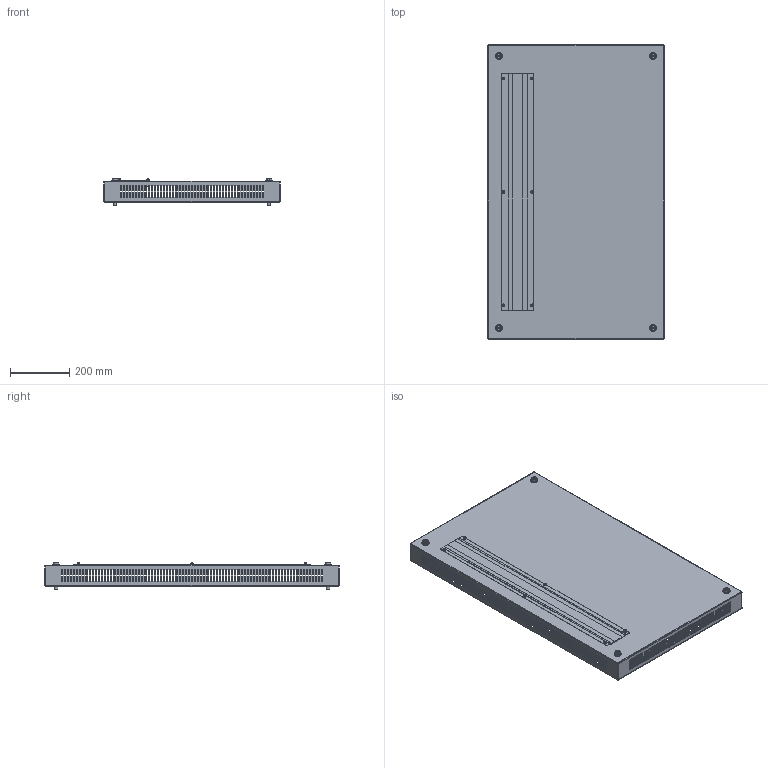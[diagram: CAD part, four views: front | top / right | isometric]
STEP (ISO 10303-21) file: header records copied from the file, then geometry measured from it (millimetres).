
FILE_DESCRIPTION(('STEP AP203'), '1');
FILE_NAME('3320 ÑÁ Ïîòîëî÷íàÿ ïàíåëü', '', ('UNSPECIFIED'), ('UNSPECIFIED'), 'C3D Converter', 'C3D Toolkit', '');
FILE_SCHEMA(('CONFIG_CONTROL_DESIGN'));
Length unit declared in the file: millimetre
Products named in the file (10): 3320.100.60.Щ СБ; 3321; 2329
Assembly tree (39 placements, depth 2):
  3320.100.60.Щ СБ
    3321
    2329  x4
    (unnamed)  x4
    (unnamed)  x4
    (unnamed)  x6
    (unnamed)  x6
    (unnamed)  x6
    (unnamed)  x6
    (unnamed)  x2
Bounding box: 597 x 997 x 93.5 mm (x, y, z)
Volume: 1578452.1 mm3; surface area: 1815923.4 mm2
Topology: 41 solids, 41 shells, 2008 faces, 5576 edges, 3692 vertices
Faces by surface type: plane 1544, cylinder 216, bspline 180, cone 26, sphere 22, torus 20
Full cylindrical faces by diameter (mm): 4.134 x6, 5 x6, 5.5 x6, 5.8 x6, 6 x4, 7 x6, 8.8 x6, 9.5 x6, 10 x6, 10.106 x4, 12 x8, 13.5 x4, 16 x4, 18 x4, 24 x4
Entity records: 52279 total; most frequent: CARTESIAN_POINT 13907, ORIENTED_EDGE 7796, DIRECTION 6798, EDGE_CURVE 3898, LINE 3680, VECTOR 3680, VERTEX_POINT 2592, EDGE_LOOP 1990
